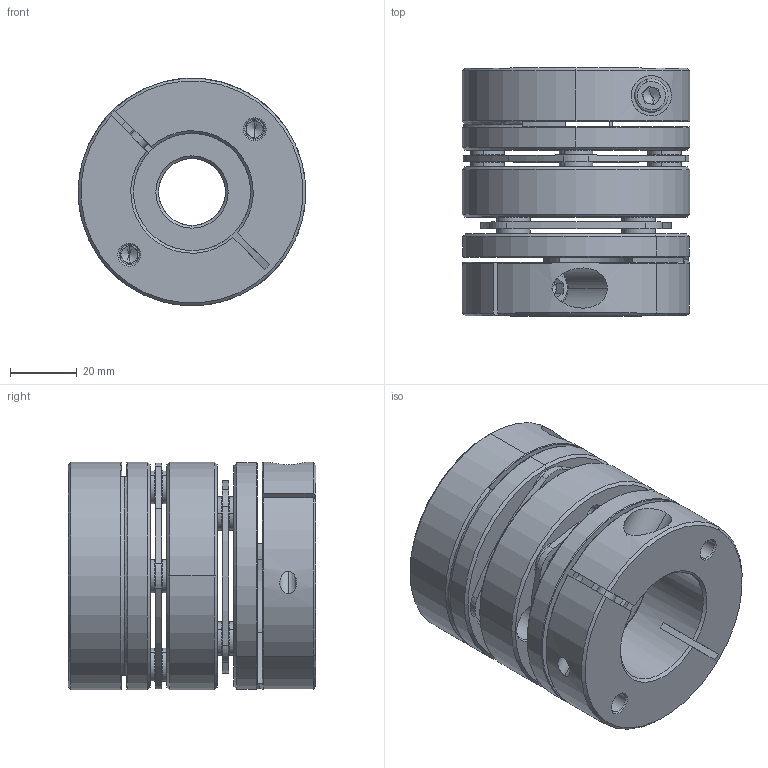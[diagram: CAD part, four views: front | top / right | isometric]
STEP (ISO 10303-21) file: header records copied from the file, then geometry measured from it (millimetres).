
FILE_DESCRIPTION (( 'STEP AP203' ), '1' );
FILE_NAME ('LD2-D68-20-35.STEP', '2021-10-26T08:36:33', ( '' ), ( '' ), 'SwSTEP 2.0', 'SolidWorks 2018', '' );
FILE_SCHEMA (( 'CONFIG_CONTROL_DESIGN' ));
Length unit declared in the file: millimetre
Products named in the file (2): 錨璃102^LD2-D68; LD2-D68-20-35
Assembly tree (1 placements, depth 2):
  LD2-D68-20-35
    錨璃102^LD2-D68
Bounding box: 68 x 74 x 68 mm (x, y, z)
Volume: 174935.8 mm3; surface area: 63181.9 mm2
Topology: 1 solids, 27 shells, 736 faces, 1708 edges, 1040 vertices
Faces by surface type: cylinder 258, cone 226, plane 222, torus 30
Entity records: 21536 total; most frequent: DIRECTION 4002, CARTESIAN_POINT 3933, ORIENTED_EDGE 3368, EDGE_CURVE 1684, AXIS2_PLACEMENT_3D 1625, VERTEX_POINT 1040, CIRCLE 885, EDGE_LOOP 872
